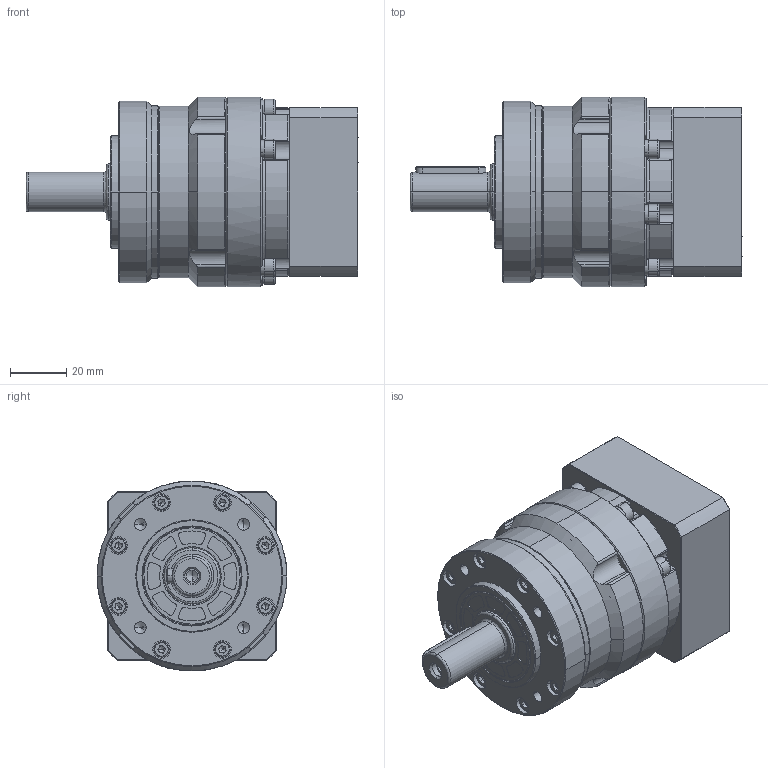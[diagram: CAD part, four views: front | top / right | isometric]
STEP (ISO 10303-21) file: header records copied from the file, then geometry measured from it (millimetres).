
FILE_DESCRIPTION (( 'STEP AP214' ), '1' );
FILE_NAME ('FE060-L1-S2-P2 14-50-70-M5-1.STEP', '2023-09-20T03:37:41', ( '微软用户' ), ( '微软中国' ), 'SwSTEP 2.0', 'SolidWorks 2018', '' );
FILE_SCHEMA (( 'AUTOMOTIVE_DESIGN' ));
Length unit declared in the file: millimetre
Products named in the file (16): spring lock washers--normal type gb_GB_FASTENER_WASHER_SW 3; hexagon socket head cap screws gb_GB_FASTENER_SCREWS_HSHCS M5X16-N; plain parallel keys_GB_CONNECTING_PIECE_KEYS_CSK 5X25; FE060一级齿圈外形图; hexagon socket head cap screws gb_GB_FASTENER_SCREWS_HSHCS M4X20-N; 萇儂楊擘FE060-D50-M5-70F60H24.5; hexagon socket head cap screws gb_GB_FASTENER_SCREWS_HSHCS M3X16-N; FE060笢潔楊擘俋倛芞; 蚐猾20X35X5; 一级输出轴FE060外形图; 输入太阳轮FE060D14外形图; spring lock washers--normal type gb_GB_FASTENER_WASHER_SW 4; FE060圆输出端盖外形图; 標杶FE060D17; FE060-L1-S2-P2 14-50-70-M5-1; hex socket set screws with flat point gb_GB_FASTENER_SCREWS_HSFP M10X8-N
Assembly tree (51 placements, depth 2):
  FE060-L1-S2-P2 14-50-70-M5-1
    FE060一级齿圈外形图
    一级输出轴FE060外形图
    输入太阳轮FE060D14外形图
    FE060笢潔楊擘俋倛芞
    萇儂楊擘FE060-D50-M5-70F60H24.5
    標杶FE060D17
    hexagon socket head cap screws gb_GB_FASTENER_SCREWS_HSHCS M5X16-N
    hexagon socket head cap screws gb_GB_FASTENER_SCREWS_HSHCS M4X20-N  x12
    spring lock washers--normal type gb_GB_FASTENER_WASHER_SW 4  x12
    hex socket set screws with flat point gb_GB_FASTENER_SCREWS_HSFP M10X8-N
    蚐猾20X35X5
    plain parallel keys_GB_CONNECTING_PIECE_KEYS_CSK 5X25
    hexagon socket head cap screws gb_GB_FASTENER_SCREWS_HSHCS M3X16-N  x8
    spring lock washers--normal type gb_GB_FASTENER_WASHER_SW 3  x8
    FE060圆输出端盖外形图
Bounding box: 118 x 67.5 x 67.5 mm (x, y, z)
Volume: 236983.1 mm3; surface area: 78571.6 mm2
Topology: 51 solids, 51 shells, 1452 faces, 3538 edges, 2188 vertices
Faces by surface type: plane 559, cylinder 536, cone 265, bspline 92
Entity records: 36017 total; most frequent: CARTESIAN_POINT 6402, DIRECTION 4393, ORIENTED_EDGE 4020, EDGE_CURVE 2010, AXIS2_PLACEMENT_3D 1779, VERTEX_POINT 1284, CIRCLE 959, EDGE_LOOP 940
